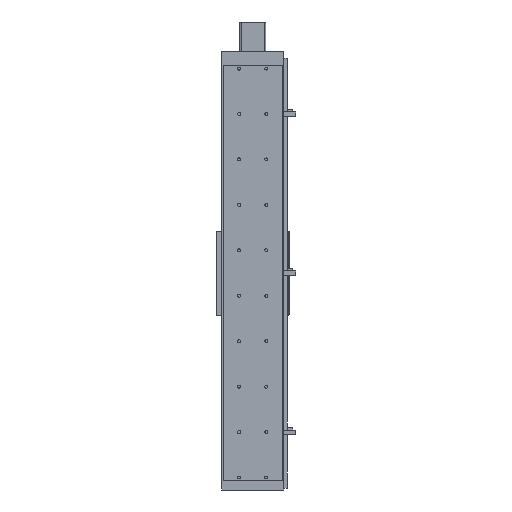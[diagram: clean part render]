
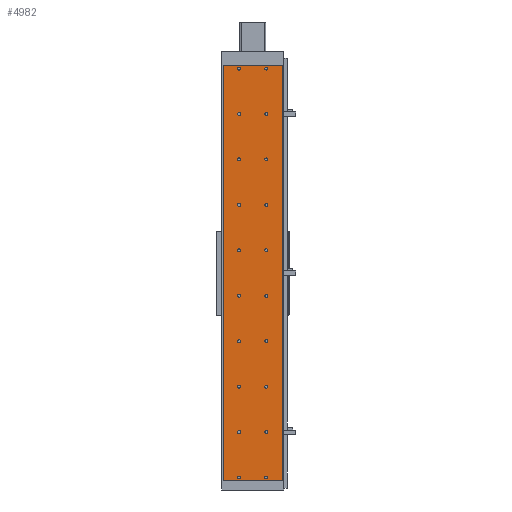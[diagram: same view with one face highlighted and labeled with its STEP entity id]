
A CAD part, front view. The second image highlights one B-rep face of the part: STEP entity #4982.
In plain terms, the highlighted planar face has unit normal (0, -1, 0).
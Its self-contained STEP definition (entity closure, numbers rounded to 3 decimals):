
#2214=CARTESIAN_POINT('',(26.75,0.0,7.5));
#2215=VERTEX_POINT('',#2214);
#2216=CARTESIAN_POINT('',(30.,0.0,7.5));
#2217=DIRECTION('',(0.0,1.0,0.0));
#2218=DIRECTION('',(1.0,0.0,0.0));
#2219=AXIS2_PLACEMENT_3D('',#2216,#2217,#2218);
#2220=CIRCLE('',#2219,3.25);
#2221=EDGE_CURVE('',#2215,#2215,#2220,.T.);
#2255=CARTESIAN_POINT('',(-33.25,0.0,7.5));
#2256=VERTEX_POINT('',#2255);
#2257=CARTESIAN_POINT('',(-30.,0.0,7.5));
#2258=DIRECTION('',(0.0,1.0,0.0));
#2259=DIRECTION('',(1.0,0.0,0.0));
#2260=AXIS2_PLACEMENT_3D('',#2257,#2258,#2259);
#2261=CIRCLE('',#2260,3.25);
#2262=EDGE_CURVE('',#2256,#2256,#2261,.T.);
#2434=CARTESIAN_POINT('',(26.75,0.0,107.5));
#2435=VERTEX_POINT('',#2434);
#2436=CARTESIAN_POINT('',(30.,0.0,107.5));
#2437=DIRECTION('',(0.0,1.0,0.0));
#2438=DIRECTION('',(1.0,0.0,0.0));
#2439=AXIS2_PLACEMENT_3D('',#2436,#2437,#2438);
#2440=CIRCLE('',#2439,3.25);
#2441=EDGE_CURVE('',#2435,#2435,#2440,.T.);
#2475=CARTESIAN_POINT('',(-33.25,0.0,107.5));
#2476=VERTEX_POINT('',#2475);
#2477=CARTESIAN_POINT('',(-30.,0.0,107.5));
#2478=DIRECTION('',(0.0,1.0,0.0));
#2479=DIRECTION('',(1.0,0.0,0.0));
#2480=AXIS2_PLACEMENT_3D('',#2477,#2478,#2479);
#2481=CIRCLE('',#2480,3.25);
#2482=EDGE_CURVE('',#2476,#2476,#2481,.T.);
#2654=CARTESIAN_POINT('',(26.75,0.0,207.5));
#2655=VERTEX_POINT('',#2654);
#2656=CARTESIAN_POINT('',(30.,0.0,207.5));
#2657=DIRECTION('',(0.0,1.0,0.0));
#2658=DIRECTION('',(1.0,0.0,0.0));
#2659=AXIS2_PLACEMENT_3D('',#2656,#2657,#2658);
#2660=CIRCLE('',#2659,3.25);
#2661=EDGE_CURVE('',#2655,#2655,#2660,.T.);
#2695=CARTESIAN_POINT('',(-33.25,0.0,207.5));
#2696=VERTEX_POINT('',#2695);
#2697=CARTESIAN_POINT('',(-30.,0.0,207.5));
#2698=DIRECTION('',(0.0,1.0,0.0));
#2699=DIRECTION('',(1.0,0.0,0.0));
#2700=AXIS2_PLACEMENT_3D('',#2697,#2698,#2699);
#2701=CIRCLE('',#2700,3.25);
#2702=EDGE_CURVE('',#2696,#2696,#2701,.T.);
#2874=CARTESIAN_POINT('',(26.75,0.0,307.5));
#2875=VERTEX_POINT('',#2874);
#2876=CARTESIAN_POINT('',(30.,0.0,307.5));
#2877=DIRECTION('',(0.0,1.0,0.0));
#2878=DIRECTION('',(1.0,0.0,0.0));
#2879=AXIS2_PLACEMENT_3D('',#2876,#2877,#2878);
#2880=CIRCLE('',#2879,3.25);
#2881=EDGE_CURVE('',#2875,#2875,#2880,.T.);
#2915=CARTESIAN_POINT('',(-33.25,0.0,307.5));
#2916=VERTEX_POINT('',#2915);
#2917=CARTESIAN_POINT('',(-30.,0.0,307.5));
#2918=DIRECTION('',(0.0,1.0,0.0));
#2919=DIRECTION('',(1.0,0.0,0.0));
#2920=AXIS2_PLACEMENT_3D('',#2917,#2918,#2919);
#2921=CIRCLE('',#2920,3.25);
#2922=EDGE_CURVE('',#2916,#2916,#2921,.T.);
#3025=CARTESIAN_POINT('',(-33.25,0.0,607.5));
#3026=VERTEX_POINT('',#3025);
#3027=CARTESIAN_POINT('',(-30.,0.0,607.5));
#3028=DIRECTION('',(0.0,1.0,0.0));
#3029=DIRECTION('',(1.0,0.0,0.0));
#3030=AXIS2_PLACEMENT_3D('',#3027,#3028,#3029);
#3031=CIRCLE('',#3030,3.25);
#3032=EDGE_CURVE('',#3026,#3026,#3031,.T.);
#3204=CARTESIAN_POINT('',(26.75,0.0,607.5));
#3205=VERTEX_POINT('',#3204);
#3206=CARTESIAN_POINT('',(30.,0.0,607.5));
#3207=DIRECTION('',(0.0,1.0,0.0));
#3208=DIRECTION('',(1.0,0.0,0.0));
#3209=AXIS2_PLACEMENT_3D('',#3206,#3207,#3208);
#3210=CIRCLE('',#3209,3.25);
#3211=EDGE_CURVE('',#3205,#3205,#3210,.T.);
#3245=CARTESIAN_POINT('',(-33.25,0.0,707.5));
#3246=VERTEX_POINT('',#3245);
#3247=CARTESIAN_POINT('',(-30.,0.0,707.5));
#3248=DIRECTION('',(0.0,1.0,0.0));
#3249=DIRECTION('',(1.0,0.0,0.0));
#3250=AXIS2_PLACEMENT_3D('',#3247,#3248,#3249);
#3251=CIRCLE('',#3250,3.25);
#3252=EDGE_CURVE('',#3246,#3246,#3251,.T.);
#3424=CARTESIAN_POINT('',(26.75,0.0,707.5));
#3425=VERTEX_POINT('',#3424);
#3426=CARTESIAN_POINT('',(30.,0.0,707.5));
#3427=DIRECTION('',(0.0,1.0,0.0));
#3428=DIRECTION('',(1.0,0.0,0.0));
#3429=AXIS2_PLACEMENT_3D('',#3426,#3427,#3428);
#3430=CIRCLE('',#3429,3.25);
#3431=EDGE_CURVE('',#3425,#3425,#3430,.T.);
#3465=CARTESIAN_POINT('',(-33.25,0.0,807.5));
#3466=VERTEX_POINT('',#3465);
#3467=CARTESIAN_POINT('',(-30.,0.0,807.5));
#3468=DIRECTION('',(0.0,1.0,0.0));
#3469=DIRECTION('',(1.0,0.0,0.0));
#3470=AXIS2_PLACEMENT_3D('',#3467,#3468,#3469);
#3471=CIRCLE('',#3470,3.25);
#3472=EDGE_CURVE('',#3466,#3466,#3471,.T.);
#3644=CARTESIAN_POINT('',(26.75,0.0,807.5));
#3645=VERTEX_POINT('',#3644);
#3646=CARTESIAN_POINT('',(30.,0.0,807.5));
#3647=DIRECTION('',(0.0,1.0,0.0));
#3648=DIRECTION('',(1.0,0.0,0.0));
#3649=AXIS2_PLACEMENT_3D('',#3646,#3647,#3648);
#3650=CIRCLE('',#3649,3.25);
#3651=EDGE_CURVE('',#3645,#3645,#3650,.T.);
#3685=CARTESIAN_POINT('',(-33.25,0.0,907.5));
#3686=VERTEX_POINT('',#3685);
#3687=CARTESIAN_POINT('',(-30.,0.0,907.5));
#3688=DIRECTION('',(0.0,1.0,0.0));
#3689=DIRECTION('',(1.0,0.0,0.0));
#3690=AXIS2_PLACEMENT_3D('',#3687,#3688,#3689);
#3691=CIRCLE('',#3690,3.25);
#3692=EDGE_CURVE('',#3686,#3686,#3691,.T.);
#3864=CARTESIAN_POINT('',(26.75,0.0,907.5));
#3865=VERTEX_POINT('',#3864);
#3866=CARTESIAN_POINT('',(30.,0.0,907.5));
#3867=DIRECTION('',(0.0,1.0,0.0));
#3868=DIRECTION('',(1.0,0.0,0.0));
#3869=AXIS2_PLACEMENT_3D('',#3866,#3867,#3868);
#3870=CIRCLE('',#3869,3.25);
#3871=EDGE_CURVE('',#3865,#3865,#3870,.T.);
#3905=CARTESIAN_POINT('',(-33.25,0.0,407.5));
#3906=VERTEX_POINT('',#3905);
#3907=CARTESIAN_POINT('',(-30.,0.0,407.5));
#3908=DIRECTION('',(0.0,1.0,0.0));
#3909=DIRECTION('',(1.0,0.0,0.0));
#3910=AXIS2_PLACEMENT_3D('',#3907,#3908,#3909);
#3911=CIRCLE('',#3910,3.25);
#3912=EDGE_CURVE('',#3906,#3906,#3911,.T.);
#4084=CARTESIAN_POINT('',(26.75,0.0,407.5));
#4085=VERTEX_POINT('',#4084);
#4086=CARTESIAN_POINT('',(30.,0.0,407.5));
#4087=DIRECTION('',(0.0,1.0,0.0));
#4088=DIRECTION('',(1.0,0.0,0.0));
#4089=AXIS2_PLACEMENT_3D('',#4086,#4087,#4088);
#4090=CIRCLE('',#4089,3.25);
#4091=EDGE_CURVE('',#4085,#4085,#4090,.T.);
#4194=CARTESIAN_POINT('',(26.75,0.0,507.5));
#4195=VERTEX_POINT('',#4194);
#4196=CARTESIAN_POINT('',(30.,0.0,507.5));
#4197=DIRECTION('',(0.0,1.0,0.0));
#4198=DIRECTION('',(1.0,0.0,0.0));
#4199=AXIS2_PLACEMENT_3D('',#4196,#4197,#4198);
#4200=CIRCLE('',#4199,3.25);
#4201=EDGE_CURVE('',#4195,#4195,#4200,.T.);
#4304=CARTESIAN_POINT('',(-33.25,0.0,507.5));
#4305=VERTEX_POINT('',#4304);
#4306=CARTESIAN_POINT('',(-30.,0.0,507.5));
#4307=DIRECTION('',(0.0,1.0,0.0));
#4308=DIRECTION('',(1.0,0.0,0.0));
#4309=AXIS2_PLACEMENT_3D('',#4306,#4307,#4308);
#4310=CIRCLE('',#4309,3.25);
#4311=EDGE_CURVE('',#4305,#4305,#4310,.T.);
#4638=CARTESIAN_POINT('',(65.0,0.0,0.0));
#4639=VERTEX_POINT('',#4638);
#4646=CARTESIAN_POINT('',(-65.0,0.0,0.0));
#4647=VERTEX_POINT('',#4646);
#4648=CARTESIAN_POINT('',(-65.0,0.0,0.0));
#4649=DIRECTION('',(1.0,0.0,0.0));
#4650=VECTOR('',#4649,130.0);
#4651=LINE('',#4648,#4650);
#4652=EDGE_CURVE('',#4647,#4639,#4651,.T.);
#4842=CARTESIAN_POINT('',(-65.0,0.0,915.0));
#4843=VERTEX_POINT('',#4842);
#4850=CARTESIAN_POINT('',(65.0,0.0,915.0));
#4851=VERTEX_POINT('',#4850);
#4852=CARTESIAN_POINT('',(65.0,0.0,915.0));
#4853=DIRECTION('',(-1.0,0.0,0.0));
#4854=VECTOR('',#4853,130.0);
#4855=LINE('',#4852,#4854);
#4856=EDGE_CURVE('',#4851,#4843,#4855,.T.);
#4879=CARTESIAN_POINT('',(-65.0,0.0,0.0));
#4880=DIRECTION('',(0.0,0.0,1.0));
#4881=VECTOR('',#4880,915.0);
#4882=LINE('',#4879,#4881);
#4883=EDGE_CURVE('',#4647,#4843,#4882,.T.);
#4901=CARTESIAN_POINT('',(65.0,0.0,0.0));
#4902=DIRECTION('',(0.0,0.0,1.0));
#4903=VECTOR('',#4902,915.0);
#4904=LINE('',#4901,#4903);
#4905=EDGE_CURVE('',#4639,#4851,#4904,.T.);
#4911=CARTESIAN_POINT('',(65.0,0.0,0.0));
#4912=DIRECTION('',(0.0,-1.0,0.0));
#4913=DIRECTION('',(0.0,0.0,-1.0));
#4914=AXIS2_PLACEMENT_3D('',#4911,#4912,#4913);
#4915=PLANE('',#4914);
#4916=ORIENTED_EDGE('',*,*,#4856,.T.);
#4917=ORIENTED_EDGE('',*,*,#4883,.F.);
#4918=ORIENTED_EDGE('',*,*,#4652,.T.);
#4919=ORIENTED_EDGE('',*,*,#4905,.T.);
#4920=EDGE_LOOP('',(#4916,#4917,#4918,#4919));
#4921=FACE_OUTER_BOUND('',#4920,.T.);
#4922=ORIENTED_EDGE('',*,*,#2221,.T.);
#4923=EDGE_LOOP('',(#4922));
#4924=FACE_BOUND('',#4923,.T.);
#4925=ORIENTED_EDGE('',*,*,#2262,.T.);
#4926=EDGE_LOOP('',(#4925));
#4927=FACE_BOUND('',#4926,.T.);
#4928=ORIENTED_EDGE('',*,*,#2441,.T.);
#4929=EDGE_LOOP('',(#4928));
#4930=FACE_BOUND('',#4929,.T.);
#4931=ORIENTED_EDGE('',*,*,#2482,.T.);
#4932=EDGE_LOOP('',(#4931));
#4933=FACE_BOUND('',#4932,.T.);
#4934=ORIENTED_EDGE('',*,*,#2661,.T.);
#4935=EDGE_LOOP('',(#4934));
#4936=FACE_BOUND('',#4935,.T.);
#4937=ORIENTED_EDGE('',*,*,#2702,.T.);
#4938=EDGE_LOOP('',(#4937));
#4939=FACE_BOUND('',#4938,.T.);
#4940=ORIENTED_EDGE('',*,*,#2881,.T.);
#4941=EDGE_LOOP('',(#4940));
#4942=FACE_BOUND('',#4941,.T.);
#4943=ORIENTED_EDGE('',*,*,#2922,.T.);
#4944=EDGE_LOOP('',(#4943));
#4945=FACE_BOUND('',#4944,.T.);
#4946=ORIENTED_EDGE('',*,*,#3032,.T.);
#4947=EDGE_LOOP('',(#4946));
#4948=FACE_BOUND('',#4947,.T.);
#4949=ORIENTED_EDGE('',*,*,#3211,.T.);
#4950=EDGE_LOOP('',(#4949));
#4951=FACE_BOUND('',#4950,.T.);
#4952=ORIENTED_EDGE('',*,*,#3252,.T.);
#4953=EDGE_LOOP('',(#4952));
#4954=FACE_BOUND('',#4953,.T.);
#4955=ORIENTED_EDGE('',*,*,#3431,.T.);
#4956=EDGE_LOOP('',(#4955));
#4957=FACE_BOUND('',#4956,.T.);
#4958=ORIENTED_EDGE('',*,*,#3472,.T.);
#4959=EDGE_LOOP('',(#4958));
#4960=FACE_BOUND('',#4959,.T.);
#4961=ORIENTED_EDGE('',*,*,#3651,.T.);
#4962=EDGE_LOOP('',(#4961));
#4963=FACE_BOUND('',#4962,.T.);
#4964=ORIENTED_EDGE('',*,*,#3692,.T.);
#4965=EDGE_LOOP('',(#4964));
#4966=FACE_BOUND('',#4965,.T.);
#4967=ORIENTED_EDGE('',*,*,#3871,.T.);
#4968=EDGE_LOOP('',(#4967));
#4969=FACE_BOUND('',#4968,.T.);
#4970=ORIENTED_EDGE('',*,*,#3912,.T.);
#4971=EDGE_LOOP('',(#4970));
#4972=FACE_BOUND('',#4971,.T.);
#4973=ORIENTED_EDGE('',*,*,#4091,.T.);
#4974=EDGE_LOOP('',(#4973));
#4975=FACE_BOUND('',#4974,.T.);
#4976=ORIENTED_EDGE('',*,*,#4201,.T.);
#4977=EDGE_LOOP('',(#4976));
#4978=FACE_BOUND('',#4977,.T.);
#4979=ORIENTED_EDGE('',*,*,#4311,.T.);
#4980=EDGE_LOOP('',(#4979));
#4981=FACE_BOUND('',#4980,.T.);
#4982=ADVANCED_FACE('',(#4921,#4924,#4927,#4930,#4933,#4936,#4939,#4942,#4945,#4948,#4951,#4954,#4957,#4960,#4963,#4966,#4969,#4972,#4975,#4978,#4981),#4915,.T.);
